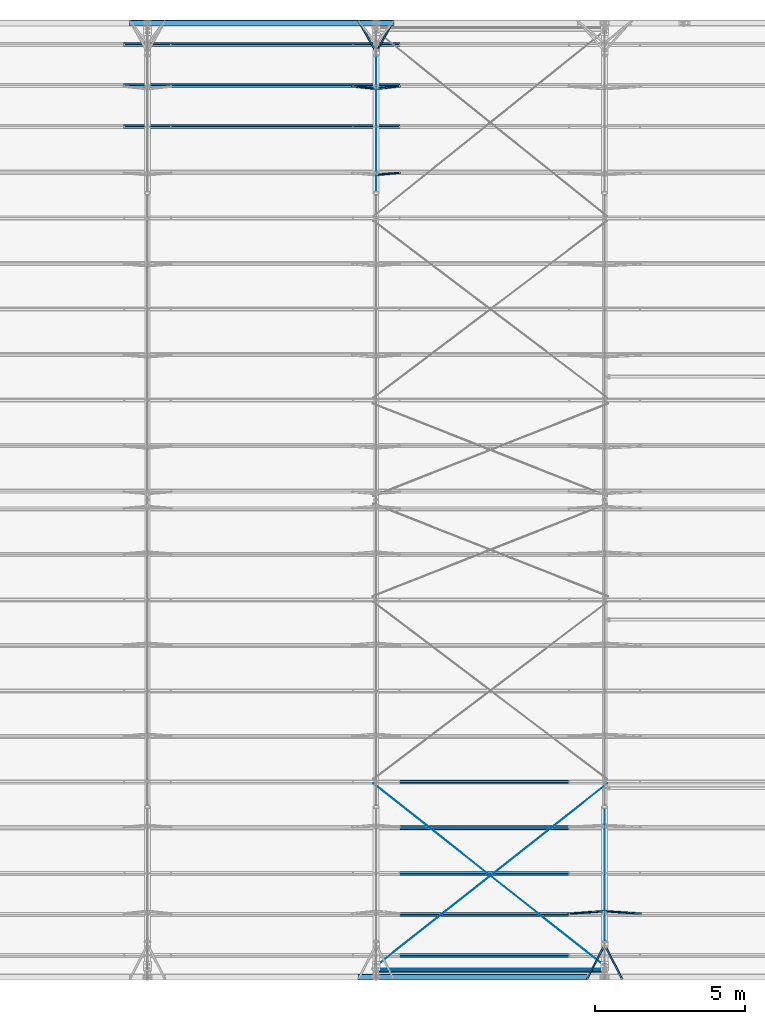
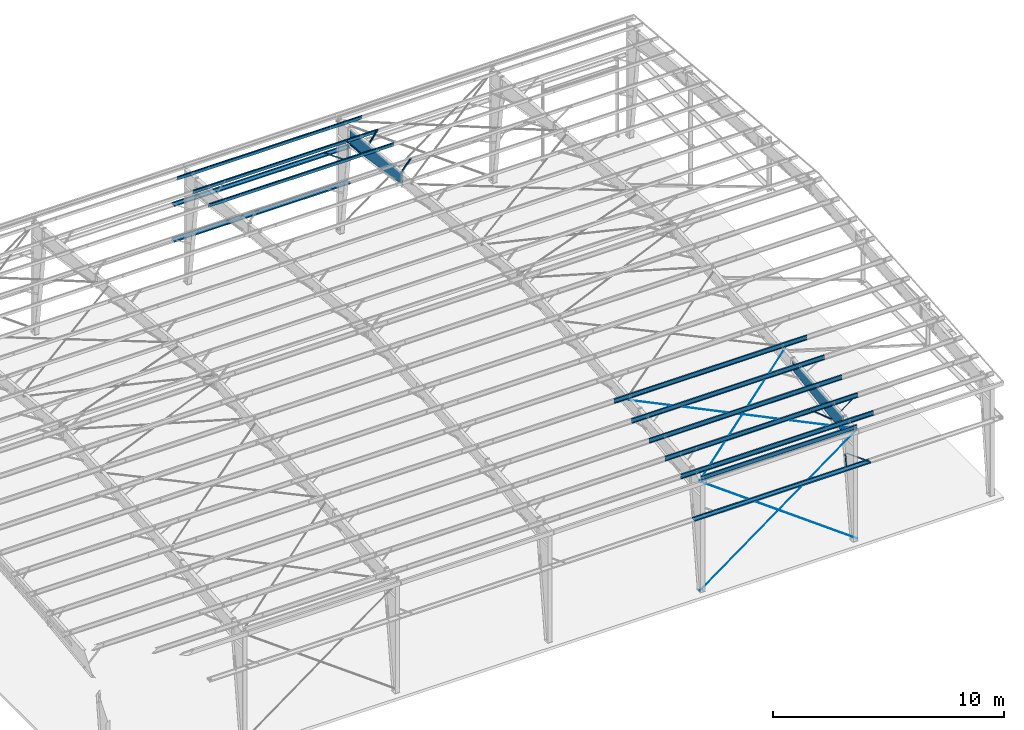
# One storey, part 16 of 185: 20 beams, 7 members, 27 elements without a shape of their own.
"""IFC2X3 building model written with IfcOpenShell, lengths in millimetres."""

from ifc_helpers import new_model, si_unit, frame, origin_with_axes, origin_2d_with_axis, place, context, subcontext, project, spatial, polyline, rectangle, circle, outline, extrude, clip, halfspace, material, type_object, element, aggregate, save


model = new_model("IFC2X3")

# Units and contexts
model_context = context("Model", 3, precision=1e-05, world=origin_with_axes())
body_context = subcontext(model_context, "Body", "Model", "MODEL_VIEW")
ifc_project = project(units=[si_unit("LENGTHUNIT", "METRE", prefix="MILLI"), si_unit("AREAUNIT", "SQUARE_METRE"), si_unit("VOLUMEUNIT", "CUBIC_METRE"), si_unit("MASSUNIT", "GRAM", prefix="KILO"), si_unit("TIMEUNIT", "SECOND"), si_unit("PLANEANGLEUNIT", "RADIAN"), si_unit("SOLIDANGLEUNIT", "STERADIAN"), si_unit("THERMODYNAMICTEMPERATUREUNIT", "DEGREE_CELSIUS"), si_unit("LUMINOUSINTENSITYUNIT", "LUMEN")], contexts=[model_context])

# Site, building, storey
site_placement = place(None, origin_with_axes())
site = spatial("IfcSite", under=ifc_project, at=site_placement, Name="Undefined", CompositionType="ELEMENT")
building_placement = place(site_placement, origin_with_axes())
building = spatial("IfcBuilding", under=site, at=building_placement, Name="Undefined", CompositionType="ELEMENT")
storey_placement = place(building_placement, origin_with_axes())
storey = spatial("IfcBuildingStorey", under=building, at=storey_placement, Name="Undefined", CompositionType="ELEMENT", Elevation=0.0)

# Assembly, beam
assembly_1_placement = place(storey_placement, origin_with_axes())
assembly_1 = element("IfcElementAssembly", 1, at=assembly_1_placement, inside=storey, Name="Steel Assembly", AssemblyPlace="NOTDEFINED", PredefinedType="RIGID_FRAME")
ifc_material = material(Name="STEEL/55")
beam_type_1 = type_object("IfcBeamType", Name="8Z15", PredefinedType="NOTDEFINED")
beam_1_placement = place(assembly_1_placement, frame((30099.0, 31180.9195102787, 6062.63787351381), z_axis=(0.0, -0.0830454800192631, -0.996545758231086), x_axis=(-1.0, 0.0, 0.0)))
beam_1 = element("IfcBeam", 2, at=beam_1_placement, type_object=beam_type_1, material=ifc_material, Name="Purlin", ObjectType="8Z15", context=body_context, shape_type="Clipping", body=[
    clip(clip(extrude(outline(polyline([(-75.75, 87.0100021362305), (-63.5, 101.599998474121), (1.5900000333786, 101.599998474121), (1.5900000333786, -98.4199981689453), (62.0200004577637, -98.4199981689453), (73.3099975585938, -84.9700012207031), (75.7399978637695, -87.0100021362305), (63.5, -101.599998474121), (-1.5900000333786, -101.599998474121), (-1.5900000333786, 98.4199981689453), (-62.0200004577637, 98.4199981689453), (-73.3099975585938, 84.9700012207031), (-75.75, 87.0100021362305)])), frame((8420.1, 0.0, 0.0), z_axis=(-1.0, 0.0, 0.0), x_axis=(0.0, -1.0, 0.0)), (0.0, 0.0, 1.0), 9220.2), halfspace(frame((8420.1, 2.91402102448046e-09, -101.600000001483), z_axis=(-1.0, 0.0, 0.0), x_axis=(0.0, 0.0, 1.0)), True)), halfspace(frame((-800.1, 2.91402102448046e-09, -101.600000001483), z_axis=(-1.0, 0.0, 0.0), x_axis=(0.0, 0.0, 1.0)), False)),
])
aggregate(assembly_1, [beam_1])

assembly_2_placement = place(storey_placement, origin_with_axes())
assembly_2 = element("IfcElementAssembly", 3, at=assembly_2_placement, inside=storey, Name="Steel Assembly", AssemblyPlace="NOTDEFINED", PredefinedType="RIGID_FRAME")
beam_2_placement = place(assembly_2_placement, frame((30099.0, 29814.0573482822, 6176.54305391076), z_axis=(0.0, -0.0830454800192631, -0.996545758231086), x_axis=(-1.0, 0.0, 0.0)))
beam_2 = element("IfcBeam", 4, at=beam_2_placement, type_object=beam_type_1, material=ifc_material, Name="Purlin", ObjectType="8Z15", context=body_context, shape_type="Clipping", body=[
    clip(clip(extrude(outline(polyline([(-75.75, 87.0100021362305), (-63.5, 101.599998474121), (1.5900000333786, 101.599998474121), (1.5900000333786, -98.4199981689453), (62.0200004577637, -98.4199981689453), (73.3099975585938, -84.9700012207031), (75.7399978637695, -87.0100021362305), (63.5, -101.599998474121), (-1.5900000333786, -101.599998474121), (-1.5900000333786, 98.4199981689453), (-62.0200004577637, 98.4199981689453), (-73.3099975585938, 84.9700012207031), (-75.75, 87.0100021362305)])), frame((8420.1, 0.0, 0.0), z_axis=(-1.0, 0.0, 0.0), x_axis=(0.0, -1.0, 0.0)), (0.0, 0.0, 1.0), 9220.2), halfspace(frame((8420.1, 2.91402102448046e-09, -101.600000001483), z_axis=(-1.0, 0.0, 0.0), x_axis=(0.0, 0.0, 1.0)), True)), halfspace(frame((-800.1, 2.91402102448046e-09, -101.600000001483), z_axis=(-1.0, 0.0, 0.0), x_axis=(0.0, 0.0, 1.0)), False)),
])
aggregate(assembly_2, [beam_2])

assembly_3_placement = place(storey_placement, origin_with_axes())
assembly_3 = element("IfcElementAssembly", 5, at=assembly_3_placement, inside=storey, Name="Steel Assembly", AssemblyPlace="NOTDEFINED", PredefinedType="RIGID_FRAME")
beam_3_placement = place(assembly_3_placement, frame((30099.0, 28447.1951862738, 6290.4482343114), z_axis=(0.0, -0.0830454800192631, -0.996545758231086), x_axis=(-1.0, 0.0, 0.0)))
beam_3 = element("IfcBeam", 6, at=beam_3_placement, type_object=beam_type_1, material=ifc_material, Name="Purlin", ObjectType="8Z15", context=body_context, shape_type="Clipping", body=[
    clip(clip(extrude(outline(polyline([(-75.75, 87.0100021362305), (-63.5, 101.599998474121), (1.5900000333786, 101.599998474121), (1.5900000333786, -98.4199981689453), (62.0200004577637, -98.4199981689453), (73.3099975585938, -84.9700012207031), (75.7399978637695, -87.0100021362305), (63.5, -101.599998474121), (-1.5900000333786, -101.599998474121), (-1.5900000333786, 98.4199981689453), (-62.0200004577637, 98.4199981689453), (-73.3099975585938, 84.9700012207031), (-75.75, 87.0100021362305)])), frame((8420.1, 0.0, 0.0), z_axis=(-1.0, 0.0, 0.0), x_axis=(0.0, -1.0, 0.0)), (0.0, 0.0, 1.0), 9220.2), halfspace(frame((8420.1, 2.91402102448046e-09, -101.600000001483), z_axis=(-1.0, 0.0, 0.0), x_axis=(0.0, 0.0, 1.0)), True)), halfspace(frame((-800.1, 2.91402102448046e-09, -101.600000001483), z_axis=(-1.0, 0.0, 0.0), x_axis=(0.0, 0.0, 1.0)), False)),
])
aggregate(assembly_3, [beam_3])

assembly_4_placement = place(storey_placement, origin_with_axes())
assembly_4 = element("IfcElementAssembly", 7, at=assembly_4_placement, inside=storey, Name="Steel Assembly", AssemblyPlace="NOTDEFINED", PredefinedType="RIGID_FRAME")
beam_4_placement = place(assembly_4_placement, frame((30099.0, 823.080489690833, 6062.63787351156), z_axis=(0.0, 0.0830454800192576, -0.996545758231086), x_axis=(1.0, 0.0, 0.0)))
beam_4 = element("IfcBeam", 8, at=beam_4_placement, type_object=beam_type_1, material=ifc_material, Name="Purlin", ObjectType="8Z15", context=body_context, shape_type="Clipping", body=[
    clip(clip(extrude(outline(polyline([(-75.75, 87.0100021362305), (-63.5, 101.599998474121), (1.5900000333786, 101.599998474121), (1.5900000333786, -98.4199981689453), (62.0200004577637, -98.4199981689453), (73.3099975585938, -84.9700012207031), (75.7399978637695, -87.0100021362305), (63.5, -101.599998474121), (-1.5900000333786, -101.599998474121), (-1.5900000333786, 98.4199981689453), (-62.0200004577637, 98.4199981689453), (-73.3099975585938, 84.9700012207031), (-75.75, 87.0100021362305)])), frame((8826.5, 0.0, 0.0), z_axis=(-1.0, 0.0, 0.0), x_axis=(0.0, -1.0, 0.0)), (0.0, 0.0, 1.0), 9626.6), halfspace(frame((8826.5, 2.91402102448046e-09, -101.600000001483), z_axis=(-1.0, 0.0, 0.0), x_axis=(0.0, 0.0, 1.0)), True)), halfspace(frame((-800.1, 2.91402102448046e-09, -101.600000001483), z_axis=(-1.0, 0.0, 0.0), x_axis=(0.0, 0.0, 1.0)), False)),
])
aggregate(assembly_4, [beam_4])

assembly_5_placement = place(storey_placement, origin_with_axes())
assembly_5 = element("IfcElementAssembly", 9, at=assembly_5_placement, inside=storey, Name="Steel Assembly", AssemblyPlace="NOTDEFINED", PredefinedType="RIGID_FRAME")
beam_5_placement = place(assembly_5_placement, frame((30099.0, 2189.94265168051, 6176.54305390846), z_axis=(0.0, 0.0830454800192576, -0.996545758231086), x_axis=(1.0, 0.0, 0.0)))
beam_5 = element("IfcBeam", 10, at=beam_5_placement, type_object=beam_type_1, material=ifc_material, Name="Purlin", ObjectType="8Z15", context=body_context, shape_type="Clipping", body=[
    clip(clip(extrude(outline(polyline([(-75.75, 87.0100021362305), (-63.5, 101.599998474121), (1.5900000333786, 101.599998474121), (1.5900000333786, -98.4199981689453), (62.0200004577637, -98.4199981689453), (73.3099975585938, -84.9700012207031), (75.7399978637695, -87.0100021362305), (63.5, -101.599998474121), (-1.5900000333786, -101.599998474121), (-1.5900000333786, 98.4199981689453), (-62.0200004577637, 98.4199981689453), (-73.3099975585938, 84.9700012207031), (-75.75, 87.0100021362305)])), frame((8826.5, 0.0, 0.0), z_axis=(-1.0, 0.0, 0.0), x_axis=(0.0, -1.0, 0.0)), (0.0, 0.0, 1.0), 9626.6), halfspace(frame((8826.5, 2.91402102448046e-09, -101.600000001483), z_axis=(-1.0, 0.0, 0.0), x_axis=(0.0, 0.0, 1.0)), True)), halfspace(frame((-800.1, 2.91402102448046e-09, -101.600000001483), z_axis=(-1.0, 0.0, 0.0), x_axis=(0.0, 0.0, 1.0)), False)),
])
aggregate(assembly_5, [beam_5])

assembly_6_placement = place(storey_placement, origin_with_axes())
assembly_6 = element("IfcElementAssembly", 11, at=assembly_6_placement, inside=storey, Name="Steel Assembly", AssemblyPlace="NOTDEFINED", PredefinedType="RIGID_FRAME")
beam_6_placement = place(assembly_6_placement, frame((30099.0, 3556.8048136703, 6290.44823430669), z_axis=(0.0, 0.0830454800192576, -0.996545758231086), x_axis=(1.0, 0.0, 0.0)))
beam_6 = element("IfcBeam", 12, at=beam_6_placement, type_object=beam_type_1, material=ifc_material, Name="Purlin", ObjectType="8Z15", context=body_context, shape_type="Clipping", body=[
    clip(clip(extrude(outline(polyline([(-75.75, 87.0100021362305), (-63.5, 101.599998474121), (1.5900000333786, 101.599998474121), (1.5900000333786, -98.4199981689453), (62.0200004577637, -98.4199981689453), (73.3099975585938, -84.9700012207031), (75.7399978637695, -87.0100021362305), (63.5, -101.599998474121), (-1.5900000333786, -101.599998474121), (-1.5900000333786, 98.4199981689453), (-62.0200004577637, 98.4199981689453), (-73.3099975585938, 84.9700012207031), (-75.75, 87.0100021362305)])), frame((8826.5, 0.0, 0.0), z_axis=(-1.0, 0.0, 0.0), x_axis=(0.0, -1.0, 0.0)), (0.0, 0.0, 1.0), 9626.6), halfspace(frame((8826.5, 2.91402102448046e-09, -101.600000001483), z_axis=(-1.0, 0.0, 0.0), x_axis=(0.0, 0.0, 1.0)), True)), halfspace(frame((-800.1, 2.91402102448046e-09, -101.600000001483), z_axis=(-1.0, 0.0, 0.0), x_axis=(0.0, 0.0, 1.0)), False)),
])
aggregate(assembly_6, [beam_6])

assembly_7_placement = place(storey_placement, origin_with_axes())
assembly_7 = element("IfcElementAssembly", 13, at=assembly_7_placement, inside=storey, Name="Steel Assembly", AssemblyPlace="NOTDEFINED", PredefinedType="RIGID_FRAME")
beam_7_placement = place(assembly_7_placement, frame((30099.0, 5075.54054921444, 6417.00954585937), z_axis=(0.0, 0.0830454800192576, -0.996545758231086), x_axis=(1.0, 0.0, 0.0)))
beam_7 = element("IfcBeam", 14, at=beam_7_placement, type_object=beam_type_1, material=ifc_material, Name="Purlin", ObjectType="8Z15", context=body_context, shape_type="Clipping", body=[
    clip(clip(extrude(outline(polyline([(-75.75, 87.0100021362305), (-63.5, 101.599998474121), (1.5900000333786, 101.599998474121), (1.5900000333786, -98.4199981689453), (62.0200004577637, -98.4199981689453), (73.3099975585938, -84.9700012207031), (75.7399978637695, -87.0100021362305), (63.5, -101.599998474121), (-1.5900000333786, -101.599998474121), (-1.5900000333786, 98.4199981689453), (-62.0200004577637, 98.4199981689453), (-73.3099975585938, 84.9700012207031), (-75.75, 87.0100021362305)])), frame((8826.5, 0.0, 0.0), z_axis=(-1.0, 0.0, 0.0), x_axis=(0.0, -1.0, 0.0)), (0.0, 0.0, 1.0), 9626.6), halfspace(frame((8826.5, 2.91402102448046e-09, -101.600000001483), z_axis=(-1.0, 0.0, 0.0), x_axis=(0.0, 0.0, 1.0)), True)), halfspace(frame((-800.1, 2.91402102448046e-09, -101.600000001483), z_axis=(-1.0, 0.0, 0.0), x_axis=(0.0, 0.0, 1.0)), False)),
])
aggregate(assembly_7, [beam_7])

assembly_8_placement = place(storey_placement, origin_with_axes())
assembly_8 = element("IfcElementAssembly", 15, at=assembly_8_placement, inside=storey, Name="Steel Assembly", AssemblyPlace="NOTDEFINED", PredefinedType="RIGID_FRAME")
beam_8_placement = place(assembly_8_placement, frame((30099.0, 6594.27628475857, 6543.57085741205), z_axis=(0.0, 0.0830454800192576, -0.996545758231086), x_axis=(1.0, 0.0, 0.0)))
beam_8 = element("IfcBeam", 16, at=beam_8_placement, type_object=beam_type_1, material=ifc_material, Name="Purlin", ObjectType="8Z15", context=body_context, shape_type="Clipping", body=[
    clip(clip(extrude(outline(polyline([(-75.75, 87.0100021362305), (-63.5, 101.599998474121), (1.5900000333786, 101.599998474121), (1.5900000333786, -98.4199981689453), (62.0200004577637, -98.4199981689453), (73.3099975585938, -84.9700012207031), (75.7399978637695, -87.0100021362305), (63.5, -101.599998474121), (-1.5900000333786, -101.599998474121), (-1.5900000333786, 98.4199981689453), (-62.0200004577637, 98.4199981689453), (-73.3099975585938, 84.9700012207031), (-75.75, 87.0100021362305)])), frame((8826.5, 0.0, 0.0), z_axis=(-1.0, 0.0, 0.0), x_axis=(0.0, -1.0, 0.0)), (0.0, 0.0, 1.0), 9626.6), halfspace(frame((8826.5, 2.91402102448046e-09, -101.600000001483), z_axis=(-1.0, 0.0, 0.0), x_axis=(0.0, 0.0, 1.0)), True)), halfspace(frame((-800.1, 2.91402102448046e-09, -101.600000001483), z_axis=(-1.0, 0.0, 0.0), x_axis=(0.0, 0.0, 1.0)), False)),
])
aggregate(assembly_8, [beam_8])

assembly_9_placement = place(storey_placement, origin_with_axes())
assembly_9 = element("IfcElementAssembly", 17, at=assembly_9_placement, inside=storey, Name="Steel Assembly", AssemblyPlace="NOTDEFINED", PredefinedType="RIGID_FRAME")
beam_type_2 = type_object("IfcBeamType", Name="FB-", PredefinedType="NOTDEFINED")
beam_9_placement = place(assembly_9_placement, frame((37661.1290964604, 1116.84173202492, 4165.16497512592), z_axis=(0.0, 0.0, -1.0), x_axis=(-0.45556863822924, -0.890200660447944, 0.0)))
beam_9 = element("IfcBeam", 18, at=beam_9_placement, type_object=beam_type_2, material=ifc_material, Name="2X2 FLANGE BRACE X 60", ObjectType="FB-", context=body_context, shape_type="SweptSolid", body=[
    extrude(outline(polyline([(1.5900000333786, 1.59000003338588), (50.7999992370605, 1.59000003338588), (50.7999992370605, 7.27595761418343e-12), (0.0, 0.0), (0.0, 50.7999992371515), (1.5900000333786, 50.7999992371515), (1.5900000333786, 1.59000003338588)])), frame((1202.47881570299, 0.0, 0.0), z_axis=(-1.0, 0.0, 0.0), x_axis=(0.0, -1.0, 0.0)), (0.0, 0.0, 1.0), 1202.5),
])
aggregate(assembly_9, [beam_9])

assembly_10_placement = place(storey_placement, origin_with_axes())
assembly_10 = element("IfcElementAssembly", 19, at=assembly_10_placement, inside=storey, Name="Steel Assembly", AssemblyPlace="NOTDEFINED", PredefinedType="RIGID_FRAME")
beam_10_placement = place(assembly_10_placement, frame((37776.870903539, 1116.84173202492, 4165.16497512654), z_axis=(-0.890200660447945, -0.455568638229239, 0.0), x_axis=(0.455568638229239, -0.890200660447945, 0.0)))
beam_10 = element("IfcBeam", 20, at=beam_10_placement, type_object=beam_type_2, material=ifc_material, Name="2X2 FLANGE BRACE X 60", ObjectType="FB-", context=body_context, shape_type="SweptSolid", body=[
    extrude(outline(polyline([(1.5900000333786, 1.59000003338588), (50.7999992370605, 1.59000003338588), (50.7999992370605, 7.27595761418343e-12), (0.0, 0.0), (0.0, 50.7999992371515), (1.5900000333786, 50.7999992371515), (1.5900000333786, 1.59000003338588)])), frame((1202.47881570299, 0.0, 0.0), z_axis=(-1.0, 0.0, 0.0), x_axis=(0.0, -1.0, 0.0)), (0.0, 0.0, 1.0), 1202.5),
])
aggregate(assembly_10, [beam_10])

assembly_11_placement = place(storey_placement, origin_with_axes())
assembly_11 = element("IfcElementAssembly", 21, at=assembly_11_placement, inside=storey, Name="Steel Assembly", AssemblyPlace="NOTDEFINED", PredefinedType="RIGID_FRAME")
beam_11_placement = place(assembly_11_placement, frame((30155.5017799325, 30986.7973037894, 4165.60000000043), z_axis=(-0.871364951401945, 0.490635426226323, 0.0), x_axis=(0.490635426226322, 0.871364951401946, 0.0)))
beam_11 = element("IfcBeam", 22, at=beam_11_placement, type_object=beam_type_2, material=ifc_material, Name="2X2 FLANGE BRACE X 60", ObjectType="FB-", context=body_context, shape_type="SweptSolid", body=[
    extrude(outline(polyline([(1.5900000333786, 1.59000003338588), (50.7999992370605, 1.59000003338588), (50.7999992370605, 7.27595761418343e-12), (0.0, 0.0), (0.0, 50.7999992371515), (1.5900000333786, 50.7999992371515), (1.5900000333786, 1.59000003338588)])), frame((1120.16580962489, 9.09494701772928e-13, 0.0), z_axis=(-1.0, 0.0, 0.0), x_axis=(0.0, -1.0, 0.0)), (0.0, 0.0, 1.0), 1120.2),
])
aggregate(assembly_11, [beam_11])

assembly_12_placement = place(storey_placement, origin_with_axes())
assembly_12 = element("IfcElementAssembly", 23, at=assembly_12_placement, inside=storey, Name="Steel Assembly", AssemblyPlace="NOTDEFINED", PredefinedType="RIGID_FRAME")
beam_12_placement = place(assembly_12_placement, frame((30042.498220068, 30986.7973037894, 4165.59999999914), z_axis=(0.0, 0.0, 1.0), x_axis=(-0.490635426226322, 0.871364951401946, 0.0)))
beam_12 = element("IfcBeam", 24, at=beam_12_placement, type_object=beam_type_2, material=ifc_material, Name="2X2 FLANGE BRACE X 60", ObjectType="FB-", context=body_context, shape_type="SweptSolid", body=[
    extrude(outline(polyline([(1.5900000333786, 1.59000003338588), (50.7999992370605, 1.59000003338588), (50.7999992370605, 7.27595761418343e-12), (0.0, 0.0), (0.0, 50.7999992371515), (1.5900000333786, 50.7999992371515), (1.5900000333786, 1.59000003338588)])), frame((1120.16580962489, 9.09494701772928e-13, 0.0), z_axis=(-1.0, 0.0, 0.0), x_axis=(0.0, -1.0, 0.0)), (0.0, 0.0, 1.0), 1120.2),
])
aggregate(assembly_12, [beam_12])

assembly_13_placement = place(storey_placement, origin_with_axes())
assembly_13 = element("IfcElementAssembly", 25, at=assembly_13_placement, inside=storey, Name="Steel Assembly", AssemblyPlace="NOTDEFINED", PredefinedType="RIGID_FRAME")
beam_type_3 = type_object("IfcBeamType", Name="8Z16", PredefinedType="NOTDEFINED")
beam_13_placement = place(assembly_13_placement, frame((37719.0, 101.6, 4165.6), z_axis=(0.0, 1.0, 0.0), x_axis=(-1.0, 0.0, 0.0)))
beam_13 = element("IfcBeam", 26, at=beam_13_placement, type_object=beam_type_3, material=ifc_material, Name="Girt", ObjectType="8Z16", context=body_context, shape_type="Clipping", body=[
    clip(clip(extrude(outline(polyline([(73.3099975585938, -84.9700012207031), (75.7399978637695, -87.0100021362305), (63.5, -101.599998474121), (-1.5900000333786, -101.599998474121), (-1.5900000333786, 98.4199981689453), (-62.0200004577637, 98.4199981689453), (-73.3099975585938, 84.9700012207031), (-75.75, 87.0100021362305), (-63.5, 101.599998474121), (1.5900000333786, 101.599998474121), (1.5900000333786, -98.4199981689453), (62.0200004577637, -98.4199981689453), (73.3099975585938, -84.9700012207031)])), frame((8216.9, 0.0, 0.0), z_axis=(-1.0, 0.0, 0.0), x_axis=(0.0, -1.0, 0.0)), (0.0, 0.0, 1.0), 8813.8), halfspace(frame((8216.9, 0.0, -101.6), z_axis=(-1.0, 0.0, 0.0), x_axis=(0.0, -1.0, 0.0)), True)), halfspace(frame((-596.900000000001, 0.0, -101.6), z_axis=(-1.0, 0.0, 0.0), x_axis=(0.0, -1.0, 0.0)), False)),
])
aggregate(assembly_13, [beam_13])

assembly_14_placement = place(storey_placement, origin_with_axes())
assembly_14 = element("IfcElementAssembly", 27, at=assembly_14_placement, inside=storey, Name="Steel Assembly", AssemblyPlace="NOTDEFINED", PredefinedType="RIGID_FRAME")
beam_14_placement = place(assembly_14_placement, frame((30099.0, 31902.4, 4165.6), z_axis=(0.0, -1.0, 0.0), x_axis=(-1.0, 0.0, 0.0)))
beam_14 = element("IfcBeam", 28, at=beam_14_placement, type_object=beam_type_3, material=ifc_material, Name="Girt", ObjectType="8Z16", context=body_context, shape_type="Clipping", body=[
    clip(clip(extrude(outline(polyline([(73.3099975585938, -84.9700012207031), (75.7399978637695, -87.0100021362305), (63.5, -101.599998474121), (-1.5900000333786, -101.599998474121), (-1.5900000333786, 98.4199981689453), (-62.0200004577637, 98.4199981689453), (-73.3099975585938, 84.9700012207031), (-75.75, 87.0100021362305), (-63.5, 101.599998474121), (1.5900000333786, 101.599998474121), (1.5900000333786, -98.4199981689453), (62.0200004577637, -98.4199981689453), (73.3099975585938, -84.9700012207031)])), frame((8216.9, 0.0, 0.0), z_axis=(-1.0, 0.0, 0.0), x_axis=(0.0, -1.0, 0.0)), (0.0, 0.0, 1.0), 8813.8), halfspace(frame((8216.9, 0.0, -101.6), z_axis=(1.0, 0.0, 0.0), x_axis=(0.0, 1.0, 0.0)), False)), halfspace(frame((-596.900000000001, 0.0, -101.6), z_axis=(1.0, 0.0, 0.0), x_axis=(0.0, 1.0, 0.0)), True)),
])
aggregate(assembly_14, [beam_14])

assembly_15_placement = place(storey_placement, origin_with_axes())
assembly_15 = element("IfcElementAssembly", 29, at=assembly_15_placement, inside=storey, Name="Steel Assembly", AssemblyPlace="NOTDEFINED", PredefinedType="RIGID_FRAME")
beam_15_placement = place(assembly_15_placement, frame((30099.0, 31902.4, 2286.0), z_axis=(0.0, -1.0, 0.0), x_axis=(-1.0, 0.0, 0.0)))
beam_15 = element("IfcBeam", 30, at=beam_15_placement, type_object=beam_type_3, material=ifc_material, Name="Girt", ObjectType="8Z16", context=body_context, shape_type="Clipping", body=[
    clip(clip(extrude(outline(polyline([(73.3099975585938, -84.9700012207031), (75.7399978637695, -87.0100021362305), (63.5, -101.599998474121), (-1.5900000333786, -101.599998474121), (-1.5900000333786, 98.4199981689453), (-62.0200004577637, 98.4199981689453), (-73.3099975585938, 84.9700012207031), (-75.75, 87.0100021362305), (-63.5, 101.599998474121), (1.5900000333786, 101.599998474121), (1.5900000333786, -98.4199981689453), (62.0200004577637, -98.4199981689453), (73.3099975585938, -84.9700012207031)])), frame((8216.9, 0.0, 0.0), z_axis=(-1.0, 0.0, 0.0), x_axis=(0.0, -1.0, 0.0)), (0.0, 0.0, 1.0), 8813.8), halfspace(frame((8216.9, 0.0, -101.6), z_axis=(1.0, 0.0, 0.0), x_axis=(0.0, 1.0, 0.0)), False)), halfspace(frame((-596.900000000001, 0.0, -101.6), z_axis=(1.0, 0.0, 0.0), x_axis=(0.0, 1.0, 0.0)), True)),
])
aggregate(assembly_15, [beam_15])

# Assembly, member
assembly_16_placement = place(storey_placement, origin_with_axes())
assembly_16 = element("IfcElementAssembly", 31, at=assembly_16_placement, inside=storey, Name="Steel Assembly", AssemblyPlace="NOTDEFINED", PredefinedType="RIGID_FRAME")
member_type_1 = type_object("IfcMemberType", Name="FB-", PredefinedType="NOTDEFINED")
member_1_placement = place(assembly_16_placement, frame((37675.3746338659, 2267.39940442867, 5247.06202077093), z_axis=(0.641182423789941, -0.0637281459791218, 0.764737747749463), x_axis=(-0.767388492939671, -0.0532473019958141, 0.638967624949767)))
member_1 = element("IfcMember", 32, at=member_1_placement, type_object=member_type_1, material=ifc_material, Name="2X2 FLANGE BRACE X 60", ObjectType="FB-", context=body_context, shape_type="SweptSolid", body=[
    extrude(outline(polyline([(1.5900000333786, 1.59000003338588), (50.7999992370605, 1.59000003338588), (50.7999992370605, 7.27595761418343e-12), (0.0, 0.0), (0.0, 50.7999992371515), (1.5900000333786, 50.7999992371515), (1.5900000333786, 1.59000003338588)])), frame((1528.8896630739, 4.44138547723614e-13, 0.0), z_axis=(-1.0, 0.0, 0.0), x_axis=(0.0, -1.0, 0.0)), (0.0, 0.0, 1.0), 1528.9),
])
aggregate(assembly_16, [member_1])

assembly_17_placement = place(storey_placement, origin_with_axes())
assembly_17 = element("IfcElementAssembly", 33, at=assembly_17_placement, inside=storey, Name="Steel Assembly", AssemblyPlace="NOTDEFINED", PredefinedType="RIGID_FRAME")
member_2_placement = place(assembly_17_placement, frame((37762.6253661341, 2267.39940442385, 5247.06202077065), z_axis=(0.0, 0.996545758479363, 0.0830454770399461), x_axis=(0.767388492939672, -0.053247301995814, 0.638967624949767)))
member_2 = element("IfcMember", 34, at=member_2_placement, type_object=member_type_1, material=ifc_material, Name="2X2 FLANGE BRACE X 60", ObjectType="FB-", context=body_context, shape_type="SweptSolid", body=[
    extrude(outline(polyline([(1.5900000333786, 1.59000003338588), (50.7999992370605, 1.59000003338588), (50.7999992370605, 7.27595761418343e-12), (0.0, 0.0), (0.0, 50.7999992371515), (1.5900000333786, 50.7999992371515), (1.5900000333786, 1.59000003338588)])), frame((1528.8896630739, 4.44138547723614e-13, 0.0), z_axis=(-1.0, 0.0, 0.0), x_axis=(0.0, -1.0, 0.0)), (0.0, 0.0, 1.0), 1528.9),
])
aggregate(assembly_17, [member_2])

assembly_18_placement = place(storey_placement, origin_with_axes())
assembly_18 = element("IfcElementAssembly", 35, at=assembly_18_placement, inside=storey, Name="Steel Assembly", AssemblyPlace="NOTDEFINED", PredefinedType="RIGID_FRAME")
member_3_placement = place(assembly_18_placement, frame((30146.4331333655, 26867.1879450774, 5681.75147708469), z_axis=(-0.718860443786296, 0.0577294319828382, 0.692753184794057), x_axis=(0.695154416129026, 0.0596981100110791, 0.716377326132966)))
member_3 = element("IfcMember", 36, at=member_3_placement, type_object=member_type_1, material=ifc_material, Name="2X2 FLANGE BRACE X 48", ObjectType="FB-", context=body_context, shape_type="SweptSolid", body=[
    extrude(outline(polyline([(1.5900000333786, 1.59000003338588), (50.7999992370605, 1.59000003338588), (50.7999992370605, 7.27595761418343e-12), (0.0, 0.0), (0.0, 50.7999992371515), (1.5900000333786, 50.7999992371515), (1.5900000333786, 1.59000003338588)])), frame((1097.86088662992, -3.65321468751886e-12, 1.03138174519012e-12), z_axis=(-1.0, 0.0, 0.0), x_axis=(0.0, -1.0, 0.0)), (0.0, 0.0, 1.0), 1097.9),
])
aggregate(assembly_18, [member_3])

assembly_19_placement = place(storey_placement, origin_with_axes())
assembly_19 = element("IfcElementAssembly", 37, at=assembly_19_placement, inside=storey, Name="Steel Assembly", AssemblyPlace="NOTDEFINED", PredefinedType="RIGID_FRAME")
member_4_placement = place(assembly_19_placement, frame((30150.4101776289, 29737.0414636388, 5252.3524377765), z_axis=(-0.791478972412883, 0.0507570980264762, 0.609085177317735), x_axis=(0.611196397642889, 0.065728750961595, 0.78874501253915)))
member_4 = element("IfcMember", 38, at=member_4_placement, type_object=member_type_1, material=ifc_material, Name="2X2 FLANGE BRACE X 60", ObjectType="FB-", context=body_context, shape_type="SweptSolid", body=[
    extrude(outline(polyline([(1.5900000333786, 1.59000003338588), (50.7999992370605, 1.59000003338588), (50.7999992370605, 7.27595761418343e-12), (0.0, 0.0), (0.0, 50.7999992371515), (1.5900000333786, 50.7999992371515), (1.5900000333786, 1.59000003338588)])), frame((1241.69216231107, 1.72319403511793e-14, 8.40566940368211e-13), z_axis=(-1.0, 0.0, 0.0), x_axis=(0.0, -1.0, 0.0)), (0.0, 0.0, 1.0), 1241.7),
])
aggregate(assembly_19, [member_4])

assembly_20_placement = place(storey_placement, origin_with_axes())
assembly_20 = element("IfcElementAssembly", 39, at=assembly_20_placement, inside=storey, Name="Steel Assembly", AssemblyPlace="NOTDEFINED", PredefinedType="RIGID_FRAME")
member_5_placement = place(assembly_20_placement, frame((30047.5898223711, 29737.0414636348, 5252.35243777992), z_axis=(0.0, -0.996545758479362, 0.0830454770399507), x_axis=(-0.611196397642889, 0.065728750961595, 0.78874501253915)))
member_5 = element("IfcMember", 40, at=member_5_placement, type_object=member_type_1, material=ifc_material, Name="2X2 FLANGE BRACE X 60", ObjectType="FB-", context=body_context, shape_type="SweptSolid", body=[
    extrude(outline(polyline([(1.5900000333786, 1.59000003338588), (50.7999992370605, 1.59000003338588), (50.7999992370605, 7.27595761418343e-12), (0.0, 0.0), (0.0, 50.7999992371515), (1.5900000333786, 50.7999992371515), (1.5900000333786, 1.59000003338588)])), frame((1241.69216231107, 1.72319403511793e-14, 8.40566940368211e-13), z_axis=(-1.0, 0.0, 0.0), x_axis=(0.0, -1.0, 0.0)), (0.0, 0.0, 1.0), 1241.7),
])
aggregate(assembly_20, [member_5])

assembly_21_placement = place(storey_placement, origin_with_axes())
assembly_21 = element("IfcElementAssembly", 41, at=assembly_21_placement, inside=storey, Name="Steel Assembly", AssemblyPlace="NOTDEFINED", PredefinedType="RIGID_FRAME")
member_type_2 = type_object("IfcMemberType", Name="RB1\"", PredefinedType="NOTDEFINED")
member_6_placement = place(assembly_21_placement, frame((29996.3978016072, 363.473999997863, 93.0130815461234), z_axis=(-0.591467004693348, 0.000611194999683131, 0.806328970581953), x_axis=(0.806329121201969, 0.0, 0.591467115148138)))
member_6 = element("IfcMember", 42, at=member_6_placement, type_object=member_type_2, material=ifc_material, Name="ROD BRACE - 1", ObjectType="RB1\"", context=body_context, shape_type="SweptSolid", body=[
    extrude(circle(Radius=12.7, at=origin_2d_with_axis()), frame((9702.64789418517, 0.0, 2.5607684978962e-12), z_axis=(-1.0, 0.0, 0.0), x_axis=(0.0, -1.0, 0.0)), (0.0, 0.0, 1.0), 9702.6),
])
aggregate(assembly_21, [member_6])

assembly_22_placement = place(storey_placement, origin_with_axes())
assembly_22 = element("IfcElementAssembly", 43, at=assembly_22_placement, inside=storey, Name="Steel Assembly", AssemblyPlace="NOTDEFINED", PredefinedType="RIGID_FRAME")
member_7_placement = place(assembly_22_placement, frame((37821.2053984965, 363.47399999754, 93.304147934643), z_axis=(0.591467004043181, 0.000611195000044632, 0.80632897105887), x_axis=(-0.806329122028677, 0.0, 0.591467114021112)))
member_7 = element("IfcMember", 44, at=member_7_placement, type_object=member_type_2, material=ifc_material, Name="ROD BRACE - 1", ObjectType="RB1\"", context=body_context, shape_type="SweptSolid", body=[
    extrude(circle(Radius=12.7, at=origin_2d_with_axis()), frame((9702.64789418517, 0.0, 2.5607684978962e-12), z_axis=(-1.0, 0.0, 0.0), x_axis=(0.0, -1.0, 0.0)), (0.0, 0.0, 1.0), 9702.6),
])
aggregate(assembly_22, [member_7])

# Assembly, beam
assembly_23_placement = place(storey_placement, origin_with_axes())
assembly_23 = element("IfcElementAssembly", 45, at=assembly_23_placement, inside=storey, Name="Steel Assembly", AssemblyPlace="NOTDEFINED", PredefinedType="RIGID_FRAME")
beam_type_4 = type_object("IfcBeamType", Name="RB3/4\"", PredefinedType="NOTDEFINED")
beam_16_placement = place(assembly_23_placement, frame((30019.3440246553, 405.911442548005, 5866.96777796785), z_axis=(-0.0791009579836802, 0.0171934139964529, 0.996718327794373), x_axis=(0.784015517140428, 0.618597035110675, 0.0515497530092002)))
beam_16 = element("IfcBeam", 46, at=beam_16_placement, type_object=beam_type_4, material=ifc_material, Name="ROD BRACE - 3/4", ObjectType="RB3/4\"", context=body_context, shape_type="SweptSolid", body=[
    extrude(circle(Radius=9.525, at=origin_2d_with_axis()), frame((9931.92038653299, -7.45160108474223e-13, 3.85830809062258e-13), z_axis=(-1.0, 0.0, 0.0), x_axis=(0.0, -1.0, 0.0)), (0.0, 0.0, 1.0), 9931.9),
])
aggregate(assembly_23, [beam_16])

assembly_24_placement = place(storey_placement, origin_with_axes())
assembly_24 = element("IfcElementAssembly", 47, at=assembly_24_placement, inside=storey, Name="Steel Assembly", AssemblyPlace="NOTDEFINED", PredefinedType="RIGID_FRAME")
beam_17_placement = place(assembly_24_placement, frame((37798.6560406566, 405.924315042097, 5866.96885370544), z_axis=(0.0790414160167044, 0.0171176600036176, 0.996724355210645), x_axis=(-0.784016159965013, 0.618596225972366, 0.0515496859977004)))
beam_17 = element("IfcBeam", 48, at=beam_17_placement, type_object=beam_type_4, material=ifc_material, Name="ROD BRACE - 3/4", ObjectType="RB3/4\"", context=body_context, shape_type="SweptSolid", body=[
    extrude(circle(Radius=9.525, at=origin_2d_with_axis()), frame((9931.91241939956, 3.62074968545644e-12, -2.02573886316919e-12), z_axis=(-1.0, 0.0, 0.0), x_axis=(0.0, -1.0, 0.0)), (0.0, 0.0, 1.0), 9931.9),
])
aggregate(assembly_24, [beam_17])

assembly_25_placement = place(storey_placement, origin_with_axes())
assembly_25 = element("IfcElementAssembly", 49, at=assembly_25_placement, inside=storey, Name="Steel Assembly", AssemblyPlace="NOTDEFINED", PredefinedType="RIGID_FRAME")
beam_type_5 = type_object("IfcBeamType", Name="8Z12", PredefinedType="NOTDEFINED")
beam_18_placement = place(assembly_25_placement, frame((30099.0, 312.089195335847, 6020.05526556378), z_axis=(0.0, 0.0830454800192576, -0.996545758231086), x_axis=(1.0, 0.0, 0.0)))
beam_18 = element("IfcBeam", 50, at=beam_18_placement, type_object=beam_type_5, material=ifc_material, Name="Purlin", ObjectType="8Z12", context=body_context, shape_type="Clipping", body=[
    clip(clip(extrude(outline(polyline([(-62.0200004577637, 98.4199981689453), (-73.3099975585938, 84.9700012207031), (-75.75, 87.0100021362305), (-63.5, 101.599998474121), (1.5900000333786, 101.599998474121), (1.5900000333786, -98.4199981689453), (62.0200004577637, -98.4199981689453), (73.3099975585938, -84.9700012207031), (75.7399978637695, -87.0100021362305), (63.5, -101.599998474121), (-1.5900000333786, -101.599998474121), (-1.5900000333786, 98.4199981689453), (-62.0200004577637, 98.4199981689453)])), frame((7708.9, 0.0, 0.0), z_axis=(-1.0, 0.0, 0.0), x_axis=(0.0, -1.0, 0.0)), (0.0, 0.0, 1.0), 7797.8), halfspace(frame((7708.9, 8.84028850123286e-10, -101.600000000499), z_axis=(-1.0, 0.0, 0.0), x_axis=(0.0, 0.0, -1.0)), True)), halfspace(frame((-88.8999999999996, 8.84028850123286e-10, -101.600000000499), z_axis=(-1.0, 0.0, 0.0), x_axis=(0.0, 0.0, 1.0)), False)),
])
aggregate(assembly_25, [beam_18])

assembly_26_placement = place(storey_placement, origin_with_axes())
assembly_26 = element("IfcElementAssembly", 51, at=assembly_26_placement, inside=storey, Name="Steel Assembly", AssemblyPlace="NOTDEFINED", PredefinedType="RIGID_FRAME")
beam_type_6 = type_object("IfcBeamType", Name="PL3/16\"X36\"", PredefinedType="NOTDEFINED")
beam_19_placement = place(assembly_26_placement, frame((37719.0, 1246.21677618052, 5529.25070197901), z_axis=(0.0, -0.0830454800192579, 0.996545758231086), x_axis=(0.0, 0.996545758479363, 0.0830454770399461)))
beam_19 = element("IfcBeam", 52, at=beam_19_placement, type_object=beam_type_6, material=ifc_material, Name="Web", ObjectType="PL3/16\"X36\"", context=body_context, shape_type="Clipping", body=[
    clip(clip(clip(extrude(rectangle(XDim=4.762, YDim=914.4, at=origin_2d_with_axis()), frame((4533.51247768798, 0.0, 9.72409825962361e-13), z_axis=(-1.0, 0.0, 0.0), x_axis=(0.0, -1.0, 0.0)), (0.0, 0.0, 1.0), 4585.0), halfspace(frame((-0.0884751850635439, 2.38124999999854, -457.200000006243), z_axis=(0.0668939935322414, 0.0, -0.997760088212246), x_axis=(0.0, -1.0, 0.0)), False)), halfspace(frame((4533.51247768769, 0.0, 457.199999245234), z_axis=(-1.0, 0.0, 0.0), x_axis=(0.0, -1.0, 0.0)), True)), halfspace(frame((76.0025415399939, 0.0, 455.892199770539), z_axis=(-0.996545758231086, 0.0, 0.0830454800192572), x_axis=(0.0, -1.0, 0.0)), False)),
])
aggregate(assembly_26, [beam_19])

assembly_27_placement = place(storey_placement, origin_with_axes())
assembly_27 = element("IfcElementAssembly", 53, at=assembly_27_placement, inside=storey, Name="Steel Assembly", AssemblyPlace="NOTDEFINED", PredefinedType="RIGID_FRAME")
beam_20_placement = place(assembly_27_placement, frame((30099.0, 30859.3851615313, 5520.71772750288), z_axis=(0.0, 0.0830454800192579, 0.996545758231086), x_axis=(0.0, -0.996545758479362, 0.0830454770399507)))
beam_20 = element("IfcBeam", 54, at=beam_20_placement, type_object=beam_type_6, material=ifc_material, Name="Web", ObjectType="PL3/16\"X36\"", context=body_context, shape_type="Clipping", body=[
    clip(clip(clip(extrude(rectangle(XDim=4.762, YDim=914.4, at=origin_2d_with_axis()), frame((4635.45841786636, 0.0, 0.0), z_axis=(-1.0, 0.0, 0.0), x_axis=(0.0, -1.0, 0.0)), (0.0, 0.0, 1.0), 4686.9), halfspace(frame((-0.0865308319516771, 2.38124999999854, -457.199999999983), z_axis=(0.0654332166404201, 0.0, -0.99785695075), x_axis=(0.0, -1.0, 0.0)), False)), halfspace(frame((4635.45841788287, 0.0, 457.199999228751), z_axis=(-1.0, 0.0, 0.0), x_axis=(0.0, -1.0, 0.0)), True)), halfspace(frame((76.004485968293, 0.0, 455.892199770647), z_axis=(-0.996545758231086, 0.0, 0.0830454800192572), x_axis=(0.0, -1.0, 0.0)), False)),
])
aggregate(assembly_27, [beam_20])

save(model, "model.ifc")
